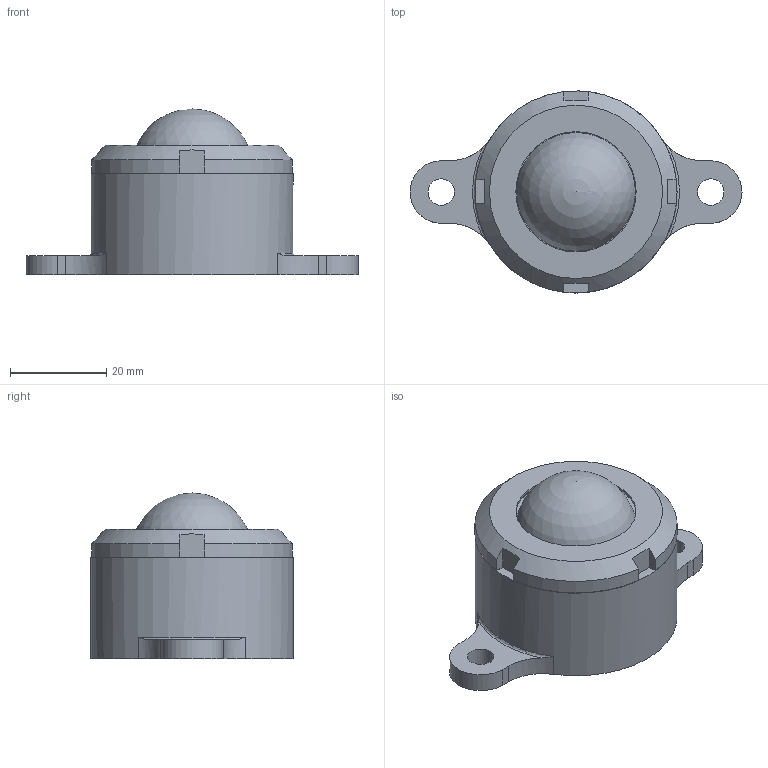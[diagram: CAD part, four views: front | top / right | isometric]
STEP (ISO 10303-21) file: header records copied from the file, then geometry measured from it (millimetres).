
FILE_DESCRIPTION(/* description */ (''),/* implementation_level */ '2;1');
FILE_NAME(/* name */ 'Z:\34-Tei\web 3Dデータ\IP-25型\IP-25JW.stp',/* time_stamp */ '2015-01-06T10:43:45+09:00',/* author */ ('yamaki'),/* organization */ (''),/* preprocessor_version */ 'ST-DEVELOPER v15.6',/* originating_system */ 'Autodesk Inventor 2015',/* authorisation */ '');
FILE_SCHEMA (('AUTOMOTIVE_DESIGN { 1 0 10303 214 3 1 1 }'));
Length unit declared in the file: millimetre
Products named in the file (1): IP-25JW
Bounding box: 69 x 42 x 34.5 mm (x, y, z)
Volume: 25727.3 mm3; surface area: 12640.5 mm2
Topology: 1 solids, 1 shells, 141 faces, 383 edges, 256 vertices
Faces by surface type: plane 76, cylinder 43, sphere 10, torus 10, cone 2
Full cylindrical faces by diameter (mm): 1 x5, 5.5 x2, 25 x1, 42 x1
Entity records: 4873 total; most frequent: CARTESIAN_POINT 1204, ORIENTED_EDGE 724, DIRECTION 716, EDGE_CURVE 362, AXIS2_PLACEMENT_3D 252, VERTEX_POINT 248, LINE 212, VECTOR 212
